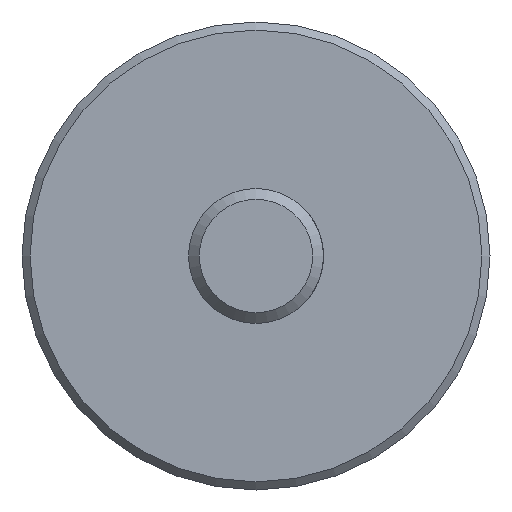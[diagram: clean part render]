
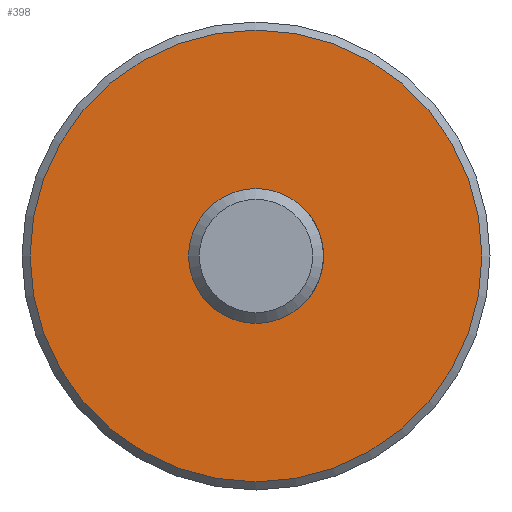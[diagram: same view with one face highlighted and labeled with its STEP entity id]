
A CAD part, front view. The second image highlights one B-rep face of the part: STEP entity #398.
In plain terms, the highlighted planar face has unit normal (0, -1, 0).
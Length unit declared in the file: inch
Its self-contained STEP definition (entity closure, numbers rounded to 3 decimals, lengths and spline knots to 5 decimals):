
#8 = FACE_BOUND ( 'NONE', #403, .T. ) ;
#17 = AXIS2_PLACEMENT_3D ( 'NONE', #468, #241, #425 ) ;
#25 = DIRECTION ( 'NONE',  ( 0., 1., 0. ) ) ;
#44 = EDGE_LOOP ( 'NONE', ( #292 ) ) ;
#56 = CIRCLE ( 'NONE', #383, 1.255 ) ;
#75 = CARTESIAN_POINT ( 'NONE',  ( 0., 3.35, 0. ) ) ;
#186 = PLANE ( 'NONE',  #557 ) ;
#210 = VERTEX_POINT ( 'NONE', #298 ) ;
#241 = DIRECTION ( 'NONE',  ( 0., 1., 0. ) ) ;
#276 = CIRCLE ( 'NONE', #17, 0.375 ) ;
#292 = ORIENTED_EDGE ( 'NONE', *, *, #567, .F. ) ;
#298 = CARTESIAN_POINT ( 'NONE',  ( 0., 3.35, 0.375 ) ) ;
#369 = CARTESIAN_POINT ( 'NONE',  ( 0.375, 3.35, 0. ) ) ;
#383 = AXIS2_PLACEMENT_3D ( 'NONE', #75, #25, #418 ) ;
#389 = CARTESIAN_POINT ( 'NONE',  ( 0., 3.35, 1.255 ) ) ;
#398 = ADVANCED_FACE ( 'NONE', ( #532, #8 ), #186, .F. ) ;
#403 = EDGE_LOOP ( 'NONE', ( #573 ) ) ;
#418 = DIRECTION ( 'NONE',  ( 0., 0., 1. ) ) ;
#425 = DIRECTION ( 'NONE',  ( 0., 0., 1. ) ) ;
#456 = DIRECTION ( 'NONE',  ( 0., 0., 1. ) ) ;
#468 = CARTESIAN_POINT ( 'NONE',  ( 0., 3.35, 0. ) ) ;
#480 = VERTEX_POINT ( 'NONE', #389 ) ;
#532 = FACE_OUTER_BOUND ( 'NONE', #44, .T. ) ;
#541 = DIRECTION ( 'NONE',  ( 0., 1., 0. ) ) ;
#557 = AXIS2_PLACEMENT_3D ( 'NONE', #369, #541, #456 ) ;
#559 = EDGE_CURVE ( 'NONE', #210, #210, #276, .T. ) ;
#567 = EDGE_CURVE ( 'NONE', #480, #480, #56, .T. ) ;
#573 = ORIENTED_EDGE ( 'NONE', *, *, #559, .T. ) ;
